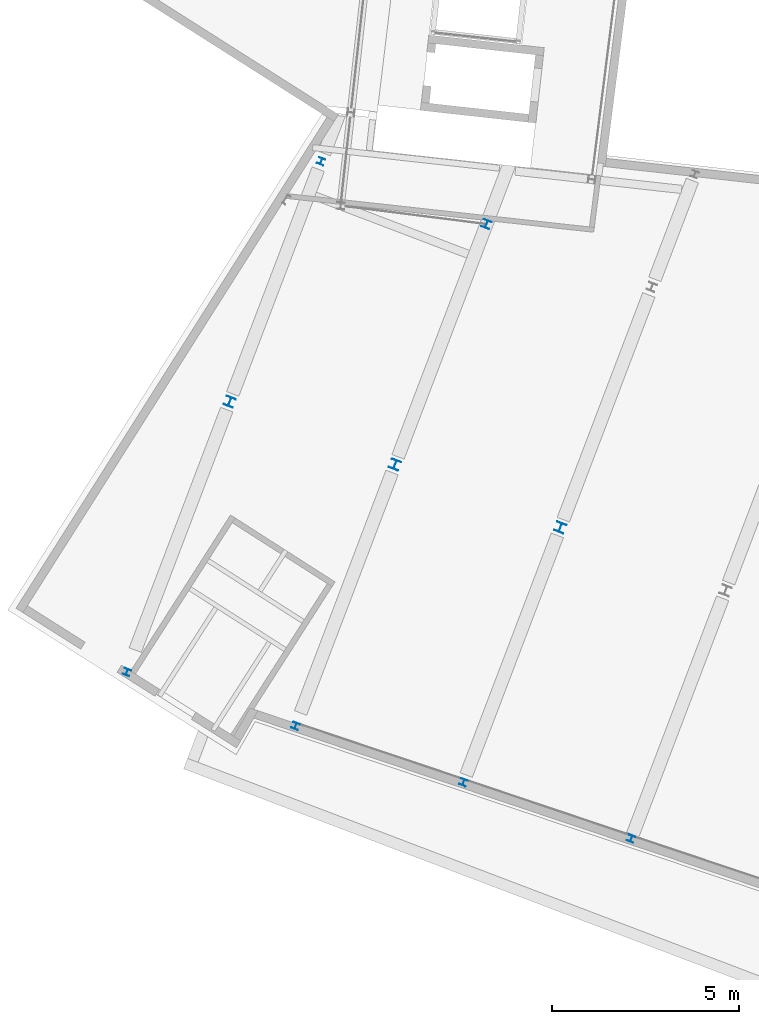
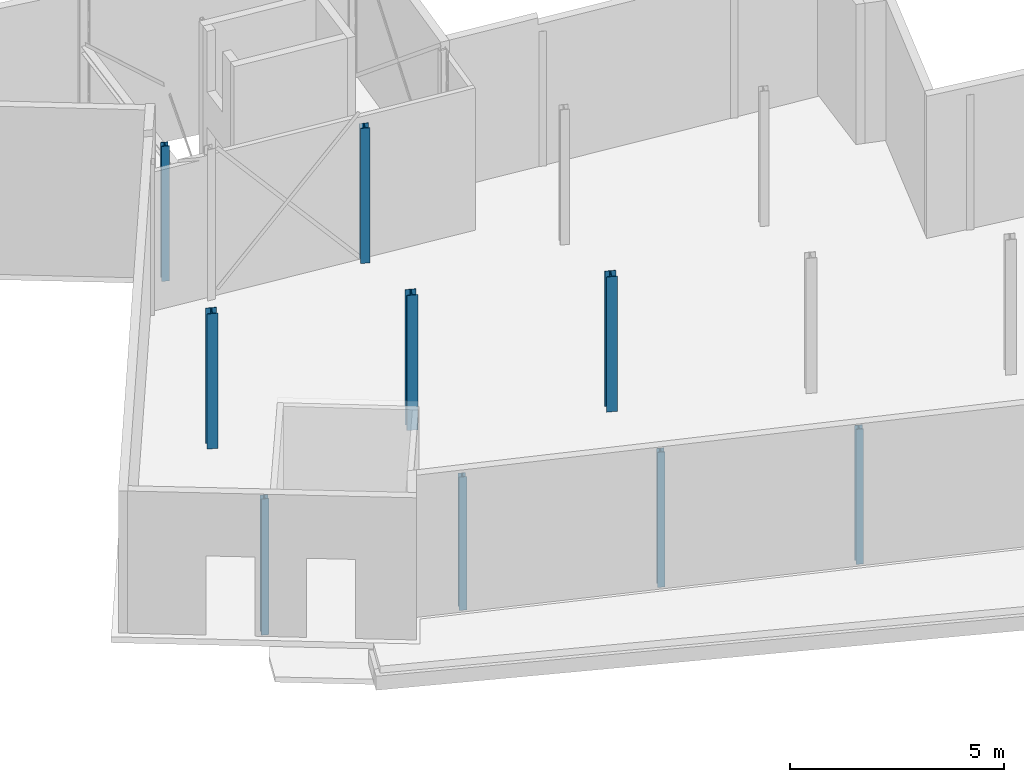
# One storey, part 31 of 46: 9 columns.
"""IFC2X3 building model written with IfcOpenShell, lengths in millimetres."""

from ifc_helpers import new_model, entity, si_unit, converted_unit, derived_unit, direction, frame, frame_2d, origin, origin_2d_with_axis, place, context, subcontext, project, spatial, i_section, extrude, source, transform, mapped, material, type_object, type_shapes, element, save


model = new_model("IFC2X3")

# Units and contexts
model_context = context("Model", 3, precision=0.01, world=origin(), true_north=direction((6.123233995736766e-17, 1.0)))
body_context = subcontext(model_context, "Body", "Model", "MODEL_VIEW")
ifc_project = project(units=[si_unit("LENGTHUNIT", "METRE", prefix="MILLI"), converted_unit("PLANEANGLEUNIT", "DEGREE", entity("IfcPlaneAngleMeasure", 0.017453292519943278), si_unit("PLANEANGLEUNIT", "RADIAN"), dimensions=[0, 0, 0, 0, 0, 0, 0]), si_unit("AREAUNIT", "SQUARE_METRE"), derived_unit("THERMALTRANSMITTANCEUNIT", [(si_unit("MASSUNIT", "GRAM", prefix="KILO"), 1), (si_unit("THERMODYNAMICTEMPERATUREUNIT", "KELVIN"), -1), (si_unit("TIMEUNIT", "SECOND"), -3)])], contexts=[model_context])

# Site, building, storey
site_placement = place(None, frame((-72937.88054949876, 11621.45624098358, 0.0), z_axis=(0.0, 0.0, 1.0), x_axis=(0.9346418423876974, -0.35559053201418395, 0.0)))
site = spatial("IfcSite", under=ifc_project, at=site_placement, Name="Default", CompositionType="ELEMENT")
building_placement = place(site_placement, origin())
building = spatial("IfcBuilding", under=site, at=building_placement, CompositionType="ELEMENT")
storey_placement = place(building_placement, origin())
storey = spatial("IfcBuildingStorey", under=building, at=storey_placement, Name="00 begane grond", CompositionType="ELEMENT", Elevation=0.0)

# Columns
ifc_material = material(Name="metaal_staal_generiek")
column_type_1 = type_object("IfcColumnType", Name="DIE22", PredefinedType="COLUMN", material=ifc_material)
shared_shape_1 = source(origin(), body_context, "Body", "SweptSolid", [
    extrude(i_section(OverallWidth=220.00000000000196, OverallDepth=209.9999999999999, WebThickness=6.999999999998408, FlangeThickness=11.000000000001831, FilletRadius=18.0, at=frame_2d((0.0, -2.1671553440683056e-12), x_axis=(1.0, 0.0))), frame((19730.0, 28760.0, -60.0), z_axis=(0.0, 0.0, 1.0), x_axis=(-1.0, 0.0, 0.0)), (0.0, 0.0, 1.0), 3859.999999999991),
])
type_shapes(column_type_1, [shared_shape_1])
column_1_placement = place(storey_placement, origin())
element("IfcColumn", 1, at=column_1_placement, inside=storey, type_object=column_type_1, material=ifc_material, Name="28.11_SCO_KolomHEA:DIE22", ObjectType="28.11_SCO_KolomHEA:DIE22", context=body_context, shape_type="MappedRepresentation", body=[
    mapped(shared_shape_1, transform((0.0, 0.0, 0.0), scale=1.0)),
])
column_type_2 = type_object("IfcColumnType", Name="DIE18", PredefinedType="COLUMN", material=ifc_material)
shared_shape_2 = source(origin(), body_context, "Body", "SweptSolid", [
    extrude(i_section(OverallWidth=180.00000000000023, OverallDepth=171.0000000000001, WebThickness=6.000000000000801, FlangeThickness=9.500000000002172, FilletRadius=15.0, at=frame_2d((1.0800249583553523e-12, 2.1671553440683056e-12), x_axis=(1.0, 0.0))), frame((15000.0, 28760.0, -60.0), z_axis=(0.0, 0.0, 1.0), x_axis=(-1.0, 0.0, 0.0)), (0.0, 0.0, 1.0), 3859.999999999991),
])
type_shapes(column_type_2, [shared_shape_2])
column_2_placement = place(storey_placement, origin())
element("IfcColumn", 2, at=column_2_placement, inside=storey, type_object=column_type_2, material=ifc_material, Name="28.11_SCO_KolomHEA:DIE18", ObjectType="28.11_SCO_KolomHEA:DIE18", context=body_context, shape_type="MappedRepresentation", body=[
    mapped(shared_shape_2, transform((0.0, 0.0, 0.0), scale=1.0)),
])
column_type_3 = type_object("IfcColumnType", Name="DIE26", PredefinedType="COLUMN", material=ifc_material)
shared_shape_3 = source(origin(), body_context, "Body", "SweptSolid", [
    extrude(i_section(OverallWidth=259.9999999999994, OverallDepth=249.9999999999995, WebThickness=7.50000000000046, FlangeThickness=12.50000000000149, FilletRadius=24.0, at=frame_2d((1.0800249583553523e-12, -2.1671553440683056e-12), x_axis=(1.0, 0.0))), frame((15000.0, 21880.0, -60.0), z_axis=(0.0, 0.0, 1.0), x_axis=(-1.0, 0.0, 0.0)), (0.0, 0.0, 1.0), 3859.999999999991),
])
type_shapes(column_type_3, [shared_shape_3])
column_3_placement = place(storey_placement, origin())
element("IfcColumn", 3, at=column_3_placement, inside=storey, type_object=column_type_3, material=ifc_material, Name="28.11_SCO_KolomHEA:DIE26", ObjectType="28.11_SCO_KolomHEA:DIE26", context=body_context, shape_type="MappedRepresentation", body=[
    mapped(shared_shape_3, transform((0.0, 0.0, 0.0), scale=1.0)),
])
column_type_4 = type_object("IfcColumnType", Name="DIE26", PredefinedType="COLUMN", material=ifc_material)
shared_shape_4 = source(origin(), body_context, "Body", "SweptSolid", [
    extrude(i_section(OverallWidth=260.00000000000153, OverallDepth=249.9999999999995, WebThickness=7.499999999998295, FlangeThickness=12.50000000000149, FilletRadius=24.0, at=frame_2d((4.320099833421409e-12, -2.1671553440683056e-12), x_axis=(1.0, 0.0))), frame((19730.0, 21880.0, -60.0), z_axis=(0.0, 0.0, 1.0), x_axis=(-1.0, 0.0, 0.0)), (0.0, 0.0, 1.0), 3859.999999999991),
])
type_shapes(column_type_4, [shared_shape_4])
column_4_placement = place(storey_placement, origin())
element("IfcColumn", 4, at=column_4_placement, inside=storey, type_object=column_type_4, material=ifc_material, Name="28.11_SCO_KolomHEA:DIE26", ObjectType="28.11_SCO_KolomHEA:DIE26", context=body_context, shape_type="MappedRepresentation", body=[
    mapped(shared_shape_4, transform((0.0, 0.0, 0.0), scale=1.0)),
])
column_type_5 = type_object("IfcColumnType", Name="DIE26", PredefinedType="COLUMN", material=ifc_material)
shared_shape_5 = source(origin(), body_context, "Body", "SweptSolid", [
    extrude(i_section(OverallWidth=260.00000000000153, OverallDepth=249.9999999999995, WebThickness=7.499999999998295, FlangeThickness=12.50000000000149, FilletRadius=24.0, at=frame_2d((0.0, -2.1671553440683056e-12), x_axis=(1.0, 0.0))), frame((24460.0, 21880.0, -60.0), z_axis=(0.0, 0.0, 1.0), x_axis=(-1.0, 0.0, 0.0)), (0.0, 0.0, 1.0), 3859.999999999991),
])
type_shapes(column_type_5, [shared_shape_5])
column_5_placement = place(storey_placement, origin())
element("IfcColumn", 5, at=column_5_placement, inside=storey, type_object=column_type_5, material=ifc_material, Name="28.11_SCO_KolomHEA:DIE26", ObjectType="28.11_SCO_KolomHEA:DIE26", context=body_context, shape_type="MappedRepresentation", body=[
    mapped(shared_shape_5, transform((0.0, 0.0, 0.0), scale=1.0)),
])
column_type_6 = type_object("IfcColumnType", Name="DIE18", PredefinedType="COLUMN", material=ifc_material)
shared_shape_6 = source(origin(), body_context, "Body", "SweptSolid", [
    extrude(i_section(OverallWidth=179.99999999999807, OverallDepth=171.0000000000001, WebThickness=5.999999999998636, FlangeThickness=9.500000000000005, FilletRadius=15.0, at=frame_2d((1.0828671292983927e-11, 2.1671553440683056e-12), x_axis=(1.0, 0.0))), frame((29190.0, 14778.052194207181, -60.0), z_axis=(0.0, 0.0, 1.0), x_axis=(-1.0, 0.0, 0.0)), (0.0, 0.0, 1.0), 3859.999999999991),
])
type_shapes(column_type_6, [shared_shape_6])
column_6_placement = place(storey_placement, origin())
element("IfcColumn", 6, at=column_6_placement, inside=storey, type_object=column_type_6, material=ifc_material, Name="28.11_SCO_KolomHEA:DIE18", ObjectType="28.11_SCO_KolomHEA:DIE18", context=body_context, shape_type="MappedRepresentation", body=[
    mapped(shared_shape_6, transform((0.0, 0.0, 0.0), scale=1.0)),
])
column_type_7 = type_object("IfcColumnType", Name="DIE18", PredefinedType="COLUMN", material=ifc_material)
shared_shape_7 = source(origin(), body_context, "Body", "SweptSolid", [
    extrude(i_section(OverallWidth=179.99999999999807, OverallDepth=171.0000000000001, WebThickness=5.999999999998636, FlangeThickness=9.500000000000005, FilletRadius=15.0, at=frame_2d((2.1671553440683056e-12, 2.1671553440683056e-12), x_axis=(1.0, 0.0))), frame((24460.0, 14590.818432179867, -60.0), z_axis=(0.0, 0.0, 1.0), x_axis=(-1.0, 0.0, 0.0)), (0.0, 0.0, 1.0), 3859.999999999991),
])
type_shapes(column_type_7, [shared_shape_7])
column_7_placement = place(storey_placement, origin())
element("IfcColumn", 7, at=column_7_placement, inside=storey, type_object=column_type_7, material=ifc_material, Name="28.11_SCO_KolomHEA:DIE18", ObjectType="28.11_SCO_KolomHEA:DIE18", context=body_context, shape_type="MappedRepresentation", body=[
    mapped(shared_shape_7, transform((0.0, 0.0, 0.0), scale=1.0)),
])
column_type_8 = type_object("IfcColumnType", Name="DIE18", PredefinedType="COLUMN", material=ifc_material)
shared_shape_8 = source(origin(), body_context, "Body", "SweptSolid", [
    extrude(i_section(OverallWidth=180.0, OverallDepth=170.99999999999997, WebThickness=5.999999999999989, FlangeThickness=9.500000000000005, FilletRadius=15.0, at=origin_2d_with_axis()), frame((0.0, 0.0, -60.0), z_axis=(0.0, 0.0, 1.0), x_axis=(-1.0, 0.0, 0.0)), (0.0, 0.0, 1.0), 3810.0),
])
type_shapes(column_type_8, [shared_shape_8])
column_8_placement = place(storey_placement, frame((19730.0, 14403.58467015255, 0.0)))
element("IfcColumn", 8, at=column_8_placement, inside=storey, type_object=column_type_8, material=ifc_material, Name="28.11_SCO_KolomHEA:DIE18", ObjectType="28.11_SCO_KolomHEA:DIE18", context=body_context, shape_type="MappedRepresentation", body=[
    mapped(shared_shape_8, transform((0.0, 0.0, 0.0), scale=1.0)),
])
column_type_9 = type_object("IfcColumnType", Name="DIE18", PredefinedType="COLUMN", material=ifc_material)
shared_shape_9 = source(origin(), body_context, "Body", "SweptSolid", [
    extrude(i_section(OverallWidth=180.00000000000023, OverallDepth=171.0000000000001, WebThickness=6.000000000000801, FlangeThickness=9.500000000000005, FilletRadius=15.0, at=frame_2d((3.254285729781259e-12, 0.0), x_axis=(1.0, 0.0))), frame((15000.0, 14145.0, -60.0), z_axis=(0.0, 0.0, 1.0), x_axis=(-1.0, 0.0, 0.0)), (0.0, 0.0, 1.0), 3889.9999999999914),
])
type_shapes(column_type_9, [shared_shape_9])
column_9_placement = place(storey_placement, origin())
element("IfcColumn", 9, at=column_9_placement, inside=storey, type_object=column_type_9, material=ifc_material, Name="28.11_SCO_KolomHEA:DIE18", ObjectType="28.11_SCO_KolomHEA:DIE18", context=body_context, shape_type="MappedRepresentation", body=[
    mapped(shared_shape_9, transform((0.0, 0.0, 0.0), scale=1.0)),
])

save(model, "model.ifc")
